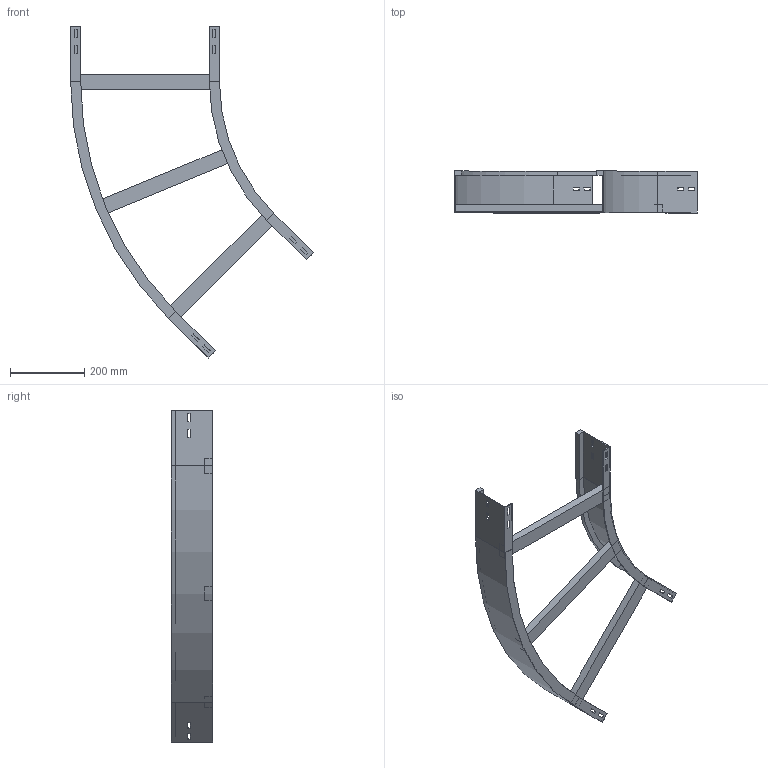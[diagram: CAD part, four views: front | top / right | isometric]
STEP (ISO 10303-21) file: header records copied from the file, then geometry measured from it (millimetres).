
FILE_DESCRIPTION (( 'STEP AP214' ), '1' );
FILE_NAME ('11B5J400.step', '2025-02-21T15:13:32', ( '' ), ( '' ), 'SwSTEP 2.0', 'SolidWorks 2023', '' );
FILE_SCHEMA (( 'AUTOMOTIVE_DESIGN' ));
Length unit declared in the file: millimetre
Products named in the file (4): A2_LONGH.ESTERNO 45°_H112.5_R500+400; 11B5J400; TRAVERSINO_400; A2_LONGH.INTERNO 45°_H112.5_R500
Assembly tree (5 placements, depth 2):
  11B5J400
    A2_LONGH.INTERNO 45°_H112.5_R500
    A2_LONGH.ESTERNO 45°_H112.5_R500+400
    TRAVERSINO_400  x3
Bounding box: 652.51 x 112.5 x 892.46 mm (x, y, z)
Volume: 1751045.3 mm3; surface area: 675966.4 mm2
Topology: 5 solids, 5 shells, 134 faces, 340 edges, 216 vertices
Faces by surface type: plane 126, cylinder 8
Entity records: 3821 total; most frequent: CARTESIAN_POINT 646, ORIENTED_EDGE 632, DIRECTION 592, EDGE_CURVE 316, LINE 300, VECTOR 300, VERTEX_POINT 200, EDGE_LOOP 154
